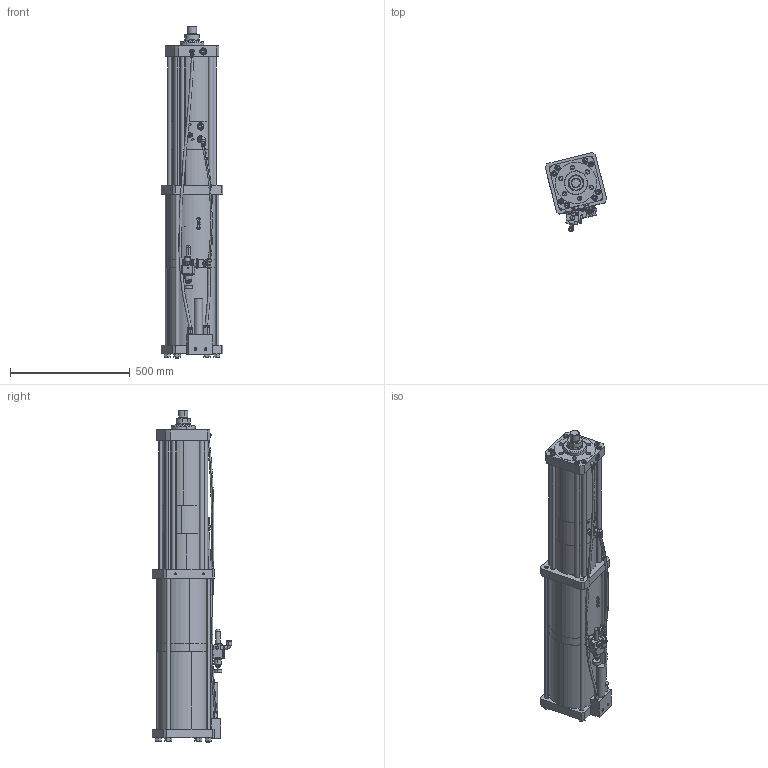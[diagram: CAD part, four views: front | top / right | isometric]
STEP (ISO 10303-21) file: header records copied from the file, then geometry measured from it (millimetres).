
FILE_DESCRIPTION (( 'STEP AP203' ), '1' );
FILE_NAME ('BS30-200-12A.step', '2025-07-31T09:40:20', ( 'Ranlm' ), ( '' ), 'SwSTEP 2.0', 'SolidWorks 2022', '' );
FILE_SCHEMA (( 'CONFIG_CONTROL_DESIGN' ));
Length unit declared in the file: millimetre
Products named in the file (1): BS30-200-12A
Bounding box: 256.97 x 330.25 x 1385 mm (x, y, z)
Surface area: 1703550.2 mm2 (no closed solid volume)
Topology: 0 solids, 79 shells, 745 faces, 2101 edges, 1442 vertices
Faces by surface type: plane 350, cylinder 254, cone 73, torus 49, bspline 16, sphere 3
Entity records: 26895 total; most frequent: CARTESIAN_POINT 7300, DIRECTION 4350, ORIENTED_EDGE 3474, EDGE_CURVE 2087, AXIS2_PLACEMENT_3D 1664, VERTEX_POINT 1439, VECTOR 1022, LINE 1022
